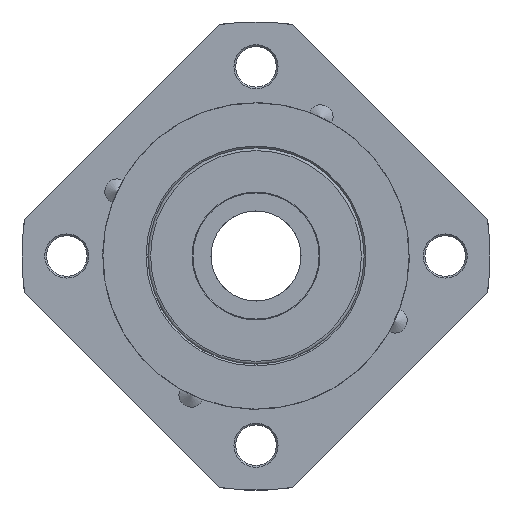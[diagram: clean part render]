
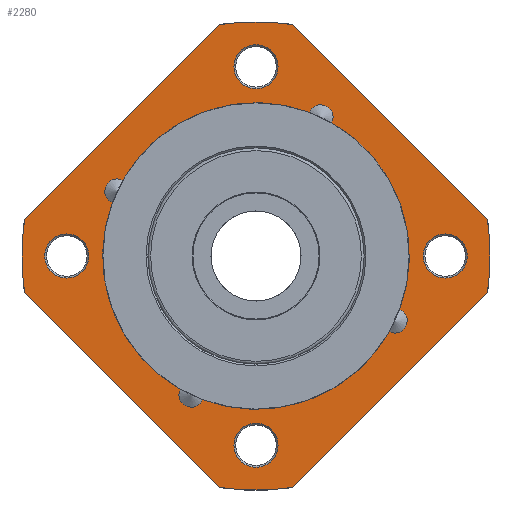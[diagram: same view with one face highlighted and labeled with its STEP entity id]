
A CAD part, left-side view. The second image highlights one B-rep face of the part: STEP entity #2280.
In plain terms, the highlighted planar face has unit normal (-1, 0, 0).
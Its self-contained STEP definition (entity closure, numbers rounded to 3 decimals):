
#212=LINE('',#3781,#264);
#213=LINE('',#3783,#265);
#214=LINE('',#3804,#266);
#215=LINE('',#3805,#267);
#264=VECTOR('',#2951,30.659);
#265=VECTOR('',#2954,30.659);
#266=VECTOR('',#2983,30.659);
#267=VECTOR('',#2984,30.659);
#309=PLANE('',#2502);
#389=FACE_BOUND('',#735,.T.);
#390=FACE_BOUND('',#736,.T.);
#391=FACE_BOUND('',#737,.T.);
#392=FACE_BOUND('',#738,.T.);
#393=FACE_BOUND('',#739,.T.);
#538=FACE_OUTER_BOUND('',#734,.T.);
#734=EDGE_LOOP('',(#1758,#1759,#1760,#1761,#1762,#1763,#1764,#1765));
#735=EDGE_LOOP('',(#1766,#1767,#1768,#1769,#1770,#1771,#1772,#1773));
#736=EDGE_LOOP('',(#1774));
#737=EDGE_LOOP('',(#1775));
#738=EDGE_LOOP('',(#1776));
#739=EDGE_LOOP('',(#1777));
#1001=CIRCLE('',#2466,1.371);
#1002=CIRCLE('',#2468,1.371);
#1003=CIRCLE('',#2470,1.371);
#1004=CIRCLE('',#2472,1.371);
#1005=CIRCLE('',#2474,17.);
#1006=CIRCLE('',#2475,17.);
#1007=CIRCLE('',#2476,17.);
#1008=CIRCLE('',#2477,17.);
#1010=CIRCLE('',#2480,26.);
#1011=CIRCLE('',#2482,26.);
#1012=CIRCLE('',#2484,26.);
#1013=CIRCLE('',#2486,26.);
#1019=CIRCLE('',#2501,2.45);
#1020=CIRCLE('',#2503,2.45);
#1021=CIRCLE('',#2504,2.45);
#1022=CIRCLE('',#2505,2.45);
#1191=VERTEX_POINT('',#3698);
#1193=VERTEX_POINT('',#3704);
#1194=VERTEX_POINT('',#3711);
#1196=VERTEX_POINT('',#3717);
#1197=VERTEX_POINT('',#3724);
#1199=VERTEX_POINT('',#3730);
#1200=VERTEX_POINT('',#3737);
#1202=VERTEX_POINT('',#3743);
#1204=VERTEX_POINT('',#3757);
#1205=VERTEX_POINT('',#3758);
#1206=VERTEX_POINT('',#3763);
#1207=VERTEX_POINT('',#3764);
#1208=VERTEX_POINT('',#3769);
#1209=VERTEX_POINT('',#3770);
#1210=VERTEX_POINT('',#3775);
#1211=VERTEX_POINT('',#3776);
#1217=VERTEX_POINT('',#3801);
#1218=VERTEX_POINT('',#3806);
#1219=VERTEX_POINT('',#3808);
#1220=VERTEX_POINT('',#3810);
#1409=EDGE_CURVE('',#1191,#1193,#1001,.T.);
#1412=EDGE_CURVE('',#1194,#1196,#1002,.T.);
#1415=EDGE_CURVE('',#1197,#1199,#1003,.T.);
#1418=EDGE_CURVE('',#1200,#1202,#1004,.T.);
#1419=EDGE_CURVE('',#1202,#1191,#1005,.T.);
#1420=EDGE_CURVE('',#1196,#1200,#1006,.T.);
#1421=EDGE_CURVE('',#1199,#1194,#1007,.T.);
#1422=EDGE_CURVE('',#1193,#1197,#1008,.T.);
#1424=EDGE_CURVE('',#1204,#1205,#1010,.T.);
#1427=EDGE_CURVE('',#1206,#1207,#1011,.T.);
#1430=EDGE_CURVE('',#1208,#1209,#1012,.T.);
#1433=EDGE_CURVE('',#1210,#1211,#1013,.T.);
#1436=EDGE_CURVE('',#1206,#1209,#212,.T.);
#1437=EDGE_CURVE('',#1204,#1211,#213,.T.);
#1443=EDGE_CURVE('',#1217,#1217,#1019,.T.);
#1444=EDGE_CURVE('',#1208,#1205,#214,.T.);
#1445=EDGE_CURVE('',#1210,#1207,#215,.T.);
#1446=EDGE_CURVE('',#1218,#1218,#1020,.T.);
#1447=EDGE_CURVE('',#1219,#1219,#1021,.T.);
#1448=EDGE_CURVE('',#1220,#1220,#1022,.T.);
#1758=ORIENTED_EDGE('',*,*,#1424,.T.);
#1759=ORIENTED_EDGE('',*,*,#1444,.F.);
#1760=ORIENTED_EDGE('',*,*,#1430,.T.);
#1761=ORIENTED_EDGE('',*,*,#1436,.F.);
#1762=ORIENTED_EDGE('',*,*,#1427,.T.);
#1763=ORIENTED_EDGE('',*,*,#1445,.F.);
#1764=ORIENTED_EDGE('',*,*,#1433,.T.);
#1765=ORIENTED_EDGE('',*,*,#1437,.F.);
#1766=ORIENTED_EDGE('',*,*,#1409,.T.);
#1767=ORIENTED_EDGE('',*,*,#1422,.T.);
#1768=ORIENTED_EDGE('',*,*,#1415,.T.);
#1769=ORIENTED_EDGE('',*,*,#1421,.T.);
#1770=ORIENTED_EDGE('',*,*,#1412,.T.);
#1771=ORIENTED_EDGE('',*,*,#1420,.T.);
#1772=ORIENTED_EDGE('',*,*,#1418,.T.);
#1773=ORIENTED_EDGE('',*,*,#1419,.T.);
#1774=ORIENTED_EDGE('',*,*,#1446,.F.);
#1775=ORIENTED_EDGE('',*,*,#1447,.F.);
#1776=ORIENTED_EDGE('',*,*,#1448,.F.);
#1777=ORIENTED_EDGE('',*,*,#1443,.F.);
#2280=ADVANCED_FACE('',(#538,#389,#390,#391,#392,#393),#309,.F.);
#2466=AXIS2_PLACEMENT_3D('',#3709,#2899,#2900);
#2468=AXIS2_PLACEMENT_3D('',#3722,#2903,#2904);
#2470=AXIS2_PLACEMENT_3D('',#3735,#2907,#2908);
#2472=AXIS2_PLACEMENT_3D('',#3748,#2911,#2912);
#2474=AXIS2_PLACEMENT_3D('',#3750,#2915,#2916);
#2475=AXIS2_PLACEMENT_3D('',#3751,#2917,#2918);
#2476=AXIS2_PLACEMENT_3D('',#3752,#2919,#2920);
#2477=AXIS2_PLACEMENT_3D('',#3753,#2921,#2922);
#2480=AXIS2_PLACEMENT_3D('',#3759,#2927,#2928);
#2482=AXIS2_PLACEMENT_3D('',#3765,#2933,#2934);
#2484=AXIS2_PLACEMENT_3D('',#3771,#2939,#2940);
#2486=AXIS2_PLACEMENT_3D('',#3777,#2945,#2946);
#2501=AXIS2_PLACEMENT_3D('',#3802,#2979,#2980);
#2502=AXIS2_PLACEMENT_3D('',#3803,#2981,#2982);
#2503=AXIS2_PLACEMENT_3D('',#3807,#2985,#2986);
#2504=AXIS2_PLACEMENT_3D('',#3809,#2987,#2988);
#2505=AXIS2_PLACEMENT_3D('',#3811,#2989,#2990);
#2899=DIRECTION('center_axis',(1.,0.,0.));
#2900=DIRECTION('ref_axis',(0.,0.,-1.));
#2903=DIRECTION('center_axis',(1.,0.,0.));
#2904=DIRECTION('ref_axis',(0.,0.,-1.));
#2907=DIRECTION('center_axis',(1.,0.,0.));
#2908=DIRECTION('ref_axis',(0.,0.,-1.));
#2911=DIRECTION('center_axis',(1.,0.,0.));
#2912=DIRECTION('ref_axis',(0.,0.,-1.));
#2915=DIRECTION('center_axis',(1.,0.,0.));
#2916=DIRECTION('ref_axis',(0.,0.,-1.));
#2917=DIRECTION('center_axis',(1.,0.,0.));
#2918=DIRECTION('ref_axis',(0.,0.,-1.));
#2919=DIRECTION('center_axis',(1.,0.,0.));
#2920=DIRECTION('ref_axis',(0.,0.,-1.));
#2921=DIRECTION('center_axis',(1.,0.,0.));
#2922=DIRECTION('ref_axis',(0.,0.,-1.));
#2927=DIRECTION('center_axis',(-1.,0.,0.));
#2928=DIRECTION('ref_axis',(0.,0.,1.));
#2933=DIRECTION('center_axis',(-1.,0.,0.));
#2934=DIRECTION('ref_axis',(0.,0.,1.));
#2939=DIRECTION('center_axis',(-1.,0.,0.));
#2940=DIRECTION('ref_axis',(0.,0.,1.));
#2945=DIRECTION('center_axis',(-1.,0.,0.));
#2946=DIRECTION('ref_axis',(0.,0.,1.));
#2951=DIRECTION('',(0.,-0.707,0.707));
#2954=DIRECTION('',(0.,0.707,-0.707));
#2979=DIRECTION('center_axis',(-1.,0.,0.));
#2980=DIRECTION('ref_axis',(0.,0.,-1.));
#2981=DIRECTION('center_axis',(1.,0.,0.));
#2982=DIRECTION('ref_axis',(0.,0.,-1.));
#2983=DIRECTION('',(0.,-0.707,-0.707));
#2984=DIRECTION('',(0.,0.707,0.707));
#2985=DIRECTION('center_axis',(-1.,0.,0.));
#2986=DIRECTION('ref_axis',(0.,0.,-1.));
#2987=DIRECTION('center_axis',(-1.,0.,0.));
#2988=DIRECTION('ref_axis',(0.,0.,-1.));
#2989=DIRECTION('center_axis',(-1.,0.,0.));
#2990=DIRECTION('ref_axis',(0.,0.,-1.));
#3698=CARTESIAN_POINT('',(0.,-15.936,-5.919));
#3704=CARTESIAN_POINT('',(0.,-14.778,-8.403));
#3709=CARTESIAN_POINT('Origin',(0.,-15.407,-7.185));
#3711=CARTESIAN_POINT('',(0.,15.936,5.919));
#3717=CARTESIAN_POINT('',(0.,14.778,8.403));
#3722=CARTESIAN_POINT('Origin',(0.,15.407,7.185));
#3724=CARTESIAN_POINT('',(0.,5.919,-15.936));
#3730=CARTESIAN_POINT('',(0.,8.403,-14.778));
#3735=CARTESIAN_POINT('Origin',(0.,7.185,-15.407));
#3737=CARTESIAN_POINT('',(0.,-5.919,15.936));
#3743=CARTESIAN_POINT('',(0.,-8.403,14.778));
#3748=CARTESIAN_POINT('Origin',(0.,-7.185,15.407));
#3750=CARTESIAN_POINT('Origin',(0.,0.,0.));
#3751=CARTESIAN_POINT('Origin',(0.,0.,0.));
#3752=CARTESIAN_POINT('Origin',(0.,0.,0.));
#3753=CARTESIAN_POINT('Origin',(0.,0.,0.));
#3757=CARTESIAN_POINT('',(0.,-25.689,-4.01));
#3758=CARTESIAN_POINT('',(0.,-25.689,4.01));
#3759=CARTESIAN_POINT('Origin',(0.,0.,0.));
#3763=CARTESIAN_POINT('',(0.,25.689,4.01));
#3764=CARTESIAN_POINT('',(0.,25.689,-4.01));
#3765=CARTESIAN_POINT('Origin',(0.,0.,0.));
#3769=CARTESIAN_POINT('',(0.,-4.01,25.689));
#3770=CARTESIAN_POINT('',(0.,4.01,25.689));
#3771=CARTESIAN_POINT('Origin',(0.,0.,0.));
#3775=CARTESIAN_POINT('',(0.,4.01,-25.689));
#3776=CARTESIAN_POINT('',(0.,-4.01,-25.689));
#3777=CARTESIAN_POINT('Origin',(0.,0.,0.));
#3781=CARTESIAN_POINT('',(0.,29.698,0.));
#3783=CARTESIAN_POINT('',(0.,-29.698,0.));
#3801=CARTESIAN_POINT('',(0.,-21.,2.45));
#3802=CARTESIAN_POINT('Origin',(0.,-21.,0.));
#3803=CARTESIAN_POINT('Origin',(0.,10.5,10.5));
#3804=CARTESIAN_POINT('',(0.,0.,29.698));
#3805=CARTESIAN_POINT('',(0.,0.,-29.698));
#3806=CARTESIAN_POINT('',(0.,0.,23.45));
#3807=CARTESIAN_POINT('Origin',(0.,0.,21.));
#3808=CARTESIAN_POINT('',(0.,0.,-18.55));
#3809=CARTESIAN_POINT('Origin',(0.,0.,-21.));
#3810=CARTESIAN_POINT('',(0.,21.,2.45));
#3811=CARTESIAN_POINT('Origin',(0.,21.,0.));
